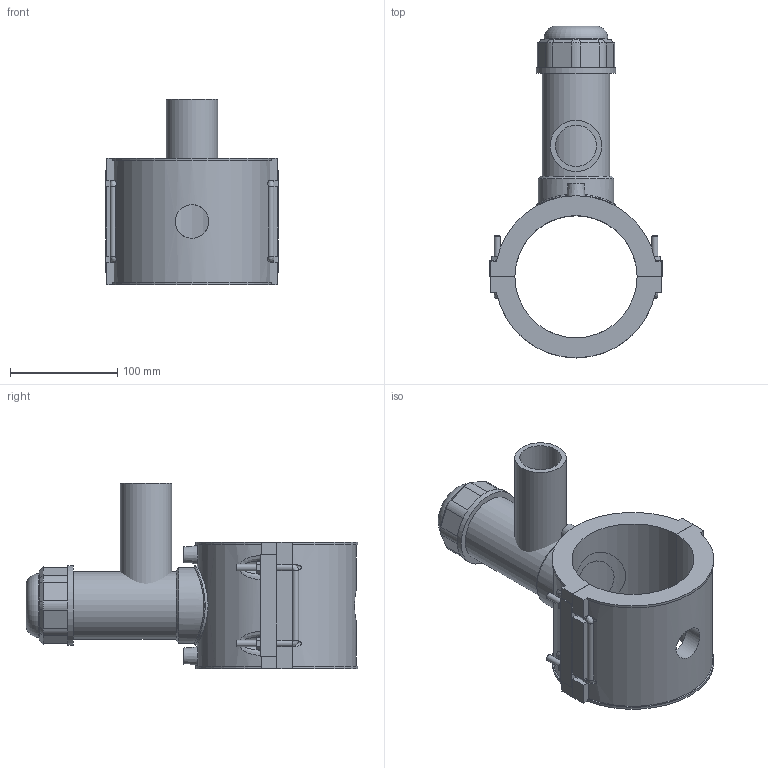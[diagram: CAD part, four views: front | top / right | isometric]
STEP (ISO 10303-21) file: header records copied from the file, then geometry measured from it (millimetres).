
FILE_DESCRIPTION(/* description */ ('PLASSON TAPPING SADDLE 4''''IPS x 1 1/2''''IPS'),/* implementation_level */ '2;1');
FILE_NAME(/* name */ 'C:\Dropbox\KIMPROJECTS-Inventor 2019\99-16-3568-Processing Inch\ASTM ElectroFusion 2021\5963BBP_5963BUP\5963BBP3040015.ipt.stp',/* time_stamp */ '2021-08-30T09:57:09+03:00',/* author */ ('KIM'),/* organization */ (''),/* preprocessor_version */ 'ST-DEVELOPER v17.2',/* originating_system */ 'Autodesk Inventor 2019',/* authorisation */ '');
FILE_SCHEMA (('AUTOMOTIVE_DESIGN { 1 0 10303 214 3 1 1 }'));
Length unit declared in the file: inch
Products named in the file (1): 5963BBP3040015
Bounding box: 161 x 309.74 x 173.1 mm (x, y, z)
Volume: 1282633.2 mm3; surface area: 236954.8 mm2
Topology: 3 solids, 3 shells, 195 faces, 500 edges, 321 vertices
Faces by surface type: plane 112, cylinder 54, cone 15, bspline 13, torus 1
Full cylindrical faces by diameter (mm): 4 x2, 6 x8, 10 x2, 31.36 x1, 38.48 x1, 48.1 x1, 51.915 x1, 59.332 x1, 63.04 x1, 70.457 x1, 74.165 x2
Entity records: 7084 total; most frequent: CARTESIAN_POINT 2337, ORIENTED_EDGE 984, DIRECTION 951, EDGE_CURVE 492, AXIS2_PLACEMENT_3D 325, VERTEX_POINT 321, LINE 301, VECTOR 301
